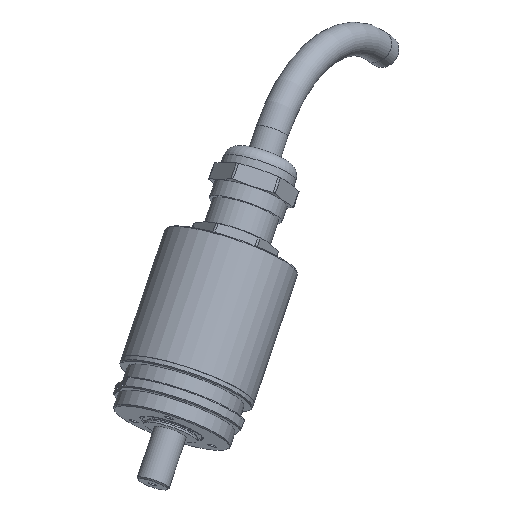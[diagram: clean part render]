
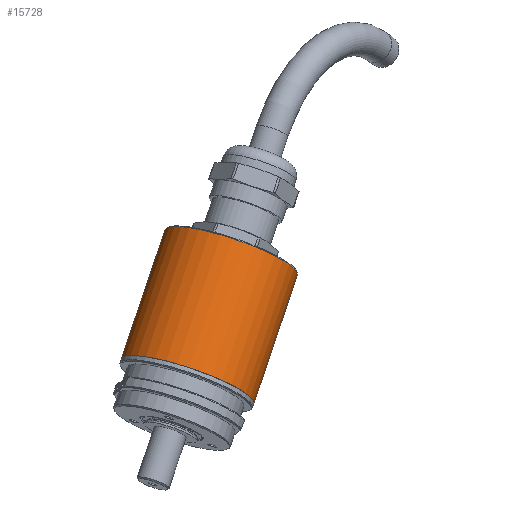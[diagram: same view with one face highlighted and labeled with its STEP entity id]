
A CAD part, front view. The second image highlights one B-rep face of the part: STEP entity #15728.
In plain terms, the highlighted cylindrical face has radius 12.5 mm (diameter 25 mm), a full revolution.
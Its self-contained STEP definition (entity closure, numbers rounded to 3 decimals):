
#972=CYLINDRICAL_SURFACE('',#17301,12.5);
#2073=FACE_OUTER_BOUND('',#3126,.T.);
#3126=EDGE_LOOP('',(#11630,#11631,#11632,#11633,#11634,#11635));
#4210=LINE('',#24861,#5409);
#5409=VECTOR('',#19564,12.5);
#6674=CIRCLE('',#17299,12.5);
#6675=CIRCLE('',#17300,12.5);
#6676=CIRCLE('',#17302,12.5);
#6677=CIRCLE('',#17303,12.5);
#7637=VERTEX_POINT('',#24854);
#7638=VERTEX_POINT('',#24856);
#7639=VERTEX_POINT('',#24860);
#7640=VERTEX_POINT('',#24862);
#9220=EDGE_CURVE('',#7637,#7638,#6674,.T.);
#9221=EDGE_CURVE('',#7638,#7637,#6675,.T.);
#9222=EDGE_CURVE('',#7638,#7639,#4210,.T.);
#9223=EDGE_CURVE('',#7640,#7639,#6676,.T.);
#9224=EDGE_CURVE('',#7639,#7640,#6677,.T.);
#11630=ORIENTED_EDGE('',*,*,#9220,.F.);
#11631=ORIENTED_EDGE('',*,*,#9221,.F.);
#11632=ORIENTED_EDGE('',*,*,#9222,.T.);
#11633=ORIENTED_EDGE('',*,*,#9223,.F.);
#11634=ORIENTED_EDGE('',*,*,#9224,.F.);
#11635=ORIENTED_EDGE('',*,*,#9222,.F.);
#15728=ADVANCED_FACE('',(#2073),#972,.T.);
#17299=AXIS2_PLACEMENT_3D('',#24857,#19558,#19559);
#17300=AXIS2_PLACEMENT_3D('',#24858,#19560,#19561);
#17301=AXIS2_PLACEMENT_3D('',#24859,#19562,#19563);
#17302=AXIS2_PLACEMENT_3D('',#24863,#19565,#19566);
#17303=AXIS2_PLACEMENT_3D('',#24864,#19567,#19568);
#19558=DIRECTION('center_axis',(0.,0.,-1.));
#19559=DIRECTION('ref_axis',(-1.,0.,0.));
#19560=DIRECTION('center_axis',(0.,0.,-1.));
#19561=DIRECTION('ref_axis',(-1.,0.,0.));
#19562=DIRECTION('center_axis',(0.,0.,-1.));
#19563=DIRECTION('ref_axis',(1.,0.,0.));
#19564=DIRECTION('',(0.,0.,1.));
#19565=DIRECTION('center_axis',(0.,0.,1.));
#19566=DIRECTION('ref_axis',(1.,0.,0.));
#19567=DIRECTION('center_axis',(0.,0.,1.));
#19568=DIRECTION('ref_axis',(1.,0.,0.));
#24854=CARTESIAN_POINT('',(12.5,0.,-24.8));
#24856=CARTESIAN_POINT('',(-12.5,0.,-24.8));
#24857=CARTESIAN_POINT('Origin',(0.,0.,-24.8));
#24858=CARTESIAN_POINT('Origin',(0.,0.,-24.8));
#24859=CARTESIAN_POINT('Origin',(0.,0.,0.));
#24860=CARTESIAN_POINT('',(-12.5,0.,0.));
#24861=CARTESIAN_POINT('',(-12.5,0.,0.));
#24862=CARTESIAN_POINT('',(12.5,0.,0.));
#24863=CARTESIAN_POINT('Origin',(0.,0.,0.));
#24864=CARTESIAN_POINT('Origin',(0.,0.,0.));
